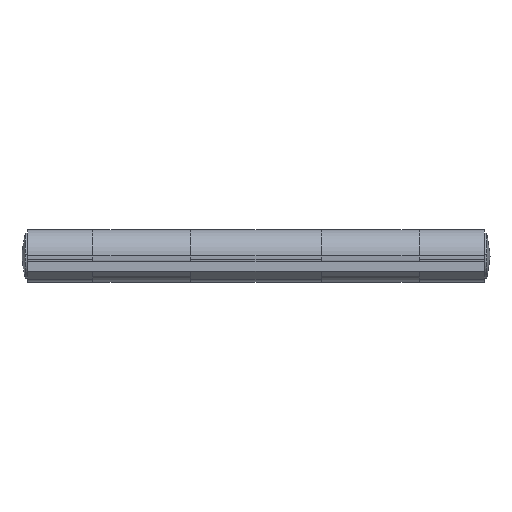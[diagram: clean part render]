
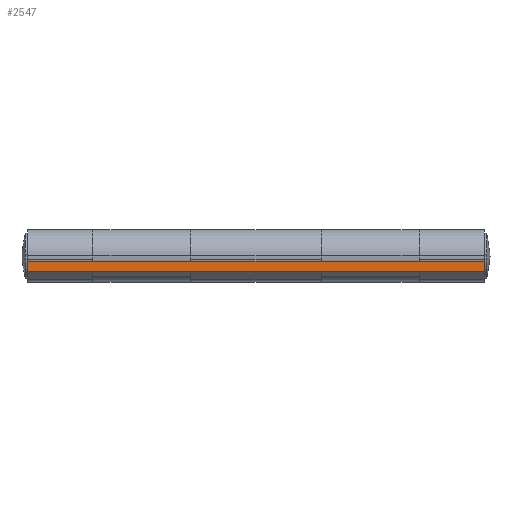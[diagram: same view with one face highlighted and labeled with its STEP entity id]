
A CAD part, top view. The second image highlights one B-rep face of the part: STEP entity #2547.
In plain terms, the highlighted planar face has unit normal (0, 0, 1) as drawn and (0, 0, -1) by its records, which use the part's own axes.
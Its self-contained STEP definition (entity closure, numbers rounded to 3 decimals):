
#54 = ORIENTED_EDGE ( 'NONE', *, *, #1533, .F. ) ;
#80 = CARTESIAN_POINT ( 'NONE',  ( 35., 0., -20.74 ) ) ;
#349 = VECTOR ( 'NONE', #2962, 1000. ) ;
#411 = VECTOR ( 'NONE', #3189, 1000. ) ;
#613 = CARTESIAN_POINT ( 'NONE',  ( 35., 0., -20.74 ) ) ;
#663 = VERTEX_POINT ( 'NONE', #928 ) ;
#772 = VERTEX_POINT ( 'NONE', #1777 ) ;
#928 = CARTESIAN_POINT ( 'NONE',  ( -35., 0., -20.74 ) ) ;
#1063 = ORIENTED_EDGE ( 'NONE', *, *, #2776, .T. ) ;
#1093 = CARTESIAN_POINT ( 'NONE',  ( 35., 0., -20.74 ) ) ;
#1133 = DIRECTION ( 'NONE',  ( -1., 0., 0. ) ) ;
#1149 = EDGE_CURVE ( 'NONE', #2691, #772, #1565, .T. ) ;
#1307 = FACE_OUTER_BOUND ( 'NONE', #2837, .T. ) ;
#1447 = LINE ( 'NONE', #1093, #349 ) ;
#1533 = EDGE_CURVE ( 'NONE', #2691, #663, #1447, .T. ) ;
#1544 = CARTESIAN_POINT ( 'NONE',  ( -35., 0., -20.74 ) ) ;
#1565 = LINE ( 'NONE', #80, #2333 ) ;
#1664 = AXIS2_PLACEMENT_3D ( 'NONE', #613, #3056, #1133 ) ;
#1777 = CARTESIAN_POINT ( 'NONE',  ( 35., -1.5, -20.74 ) ) ;
#2058 = LINE ( 'NONE', #1544, #411 ) ;
#2083 = CARTESIAN_POINT ( 'NONE',  ( 35., -1.5, -20.74 ) ) ;
#2100 = CARTESIAN_POINT ( 'NONE',  ( -35., -1.5, -20.74 ) ) ;
#2231 = PLANE ( 'NONE',  #1664 ) ;
#2311 = ORIENTED_EDGE ( 'NONE', *, *, #2663, .F. ) ;
#2333 = VECTOR ( 'NONE', #3322, 1000. ) ;
#2389 = DIRECTION ( 'NONE',  ( -1., 0., 0. ) ) ;
#2427 = ORIENTED_EDGE ( 'NONE', *, *, #1149, .T. ) ;
#2547 = ADVANCED_FACE ( 'NONE', ( #1307 ), #2231, .T. ) ;
#2561 = LINE ( 'NONE', #2083, #3133 ) ;
#2663 = EDGE_CURVE ( 'NONE', #663, #2726, #2058, .T. ) ;
#2691 = VERTEX_POINT ( 'NONE', #2939 ) ;
#2726 = VERTEX_POINT ( 'NONE', #2100 ) ;
#2776 = EDGE_CURVE ( 'NONE', #772, #2726, #2561, .T. ) ;
#2837 = EDGE_LOOP ( 'NONE', ( #2311, #54, #2427, #1063 ) ) ;
#2939 = CARTESIAN_POINT ( 'NONE',  ( 35., 0., -20.74 ) ) ;
#2962 = DIRECTION ( 'NONE',  ( -1., 0., 0. ) ) ;
#3056 = DIRECTION ( 'NONE',  ( 0., 0., -1. ) ) ;
#3133 = VECTOR ( 'NONE', #2389, 1000. ) ;
#3189 = DIRECTION ( 'NONE',  ( 0., -1., 0. ) ) ;
#3322 = DIRECTION ( 'NONE',  ( 0., -1., 0. ) ) ;
